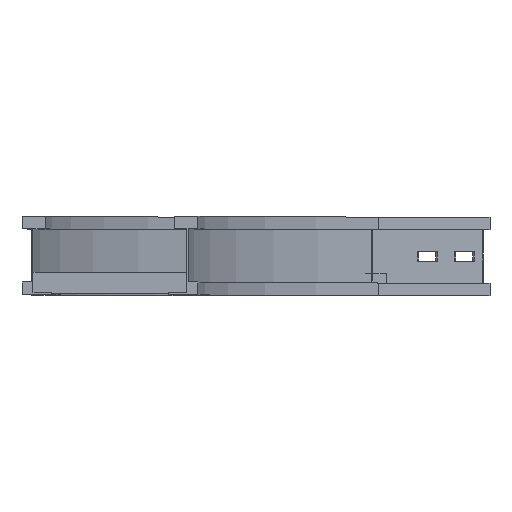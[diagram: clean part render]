
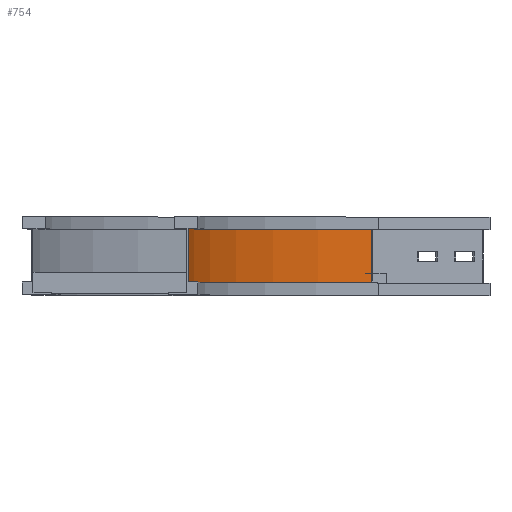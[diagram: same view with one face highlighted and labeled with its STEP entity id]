
A CAD part, top view. The second image highlights one B-rep face of the part: STEP entity #754.
In plain terms, the highlighted cylindrical face has radius 600 mm (diameter 1200 mm), a partial arc.
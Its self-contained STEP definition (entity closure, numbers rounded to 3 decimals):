
#37 = FACE_OUTER_BOUND ( 'NONE', #2501, .T. ) ;
#94 = DIRECTION ( 'NONE',  ( 0., 0., -1. ) ) ;
#132 = EDGE_CURVE ( 'NONE', #2260, #3291, #888, .T. ) ;
#430 = ORIENTED_EDGE ( 'NONE', *, *, #132, .F. ) ;
#516 = DIRECTION ( 'NONE',  ( -1., 0., 0. ) ) ;
#522 = ORIENTED_EDGE ( 'NONE', *, *, #1657, .T. ) ;
#701 = AXIS2_PLACEMENT_3D ( 'NONE', #2945, #1671, #94 ) ;
#754 = ADVANCED_FACE ( 'NONE', ( #37 ), #2457, .F. ) ;
#888 = LINE ( 'NONE', #2677, #2822 ) ;
#920 = EDGE_CURVE ( 'NONE', #3291, #3073, #2511, .T. ) ;
#1284 = VECTOR ( 'NONE', #1550, 1000. ) ;
#1346 = CARTESIAN_POINT ( 'NONE',  ( 591., 12., -150. ) ) ;
#1409 = ORIENTED_EDGE ( 'NONE', *, *, #920, .F. ) ;
#1550 = DIRECTION ( 'NONE',  ( 0., 1., 0. ) ) ;
#1657 = EDGE_CURVE ( 'NONE', #2013, #3073, #2824, .T. ) ;
#1671 = DIRECTION ( 'NONE',  ( 0., -1., 0. ) ) ;
#1708 = EDGE_CURVE ( 'NONE', #2260, #2013, #3182, .T. ) ;
#1832 = AXIS2_PLACEMENT_3D ( 'NONE', #1346, #3113, #516 ) ;
#1859 = CARTESIAN_POINT ( 'NONE',  ( 166.736, 12., -574.264 ) ) ;
#2013 = VERTEX_POINT ( 'NONE', #2574 ) ;
#2072 = DIRECTION ( 'NONE',  ( -1., 0., 0. ) ) ;
#2260 = VERTEX_POINT ( 'NONE', #3298 ) ;
#2318 = CARTESIAN_POINT ( 'NONE',  ( 591., 63., -150. ) ) ;
#2405 = AXIS2_PLACEMENT_3D ( 'NONE', #2318, #2586, #2072 ) ;
#2457 = CYLINDRICAL_SURFACE ( 'NONE', #701, 600. ) ;
#2486 = CARTESIAN_POINT ( 'NONE',  ( -9., 63., -150. ) ) ;
#2501 = EDGE_LOOP ( 'NONE', ( #1409, #430, #2742, #522 ) ) ;
#2511 = CIRCLE ( 'NONE', #2405, 600. ) ;
#2574 = CARTESIAN_POINT ( 'NONE',  ( 166.736, 12., -574.264 ) ) ;
#2586 = DIRECTION ( 'NONE',  ( 0., -1., 0. ) ) ;
#2677 = CARTESIAN_POINT ( 'NONE',  ( -9., 12., -150. ) ) ;
#2742 = ORIENTED_EDGE ( 'NONE', *, *, #1708, .T. ) ;
#2822 = VECTOR ( 'NONE', #3210, 1000. ) ;
#2824 = LINE ( 'NONE', #1859, #1284 ) ;
#2945 = CARTESIAN_POINT ( 'NONE',  ( 591., 0., -150. ) ) ;
#3073 = VERTEX_POINT ( 'NONE', #3402 ) ;
#3113 = DIRECTION ( 'NONE',  ( 0., -1., 0. ) ) ;
#3182 = CIRCLE ( 'NONE', #1832, 600. ) ;
#3210 = DIRECTION ( 'NONE',  ( 0., 1., 0. ) ) ;
#3291 = VERTEX_POINT ( 'NONE', #2486 ) ;
#3298 = CARTESIAN_POINT ( 'NONE',  ( -9., 12., -150. ) ) ;
#3402 = CARTESIAN_POINT ( 'NONE',  ( 166.736, 63., -574.264 ) ) ;
